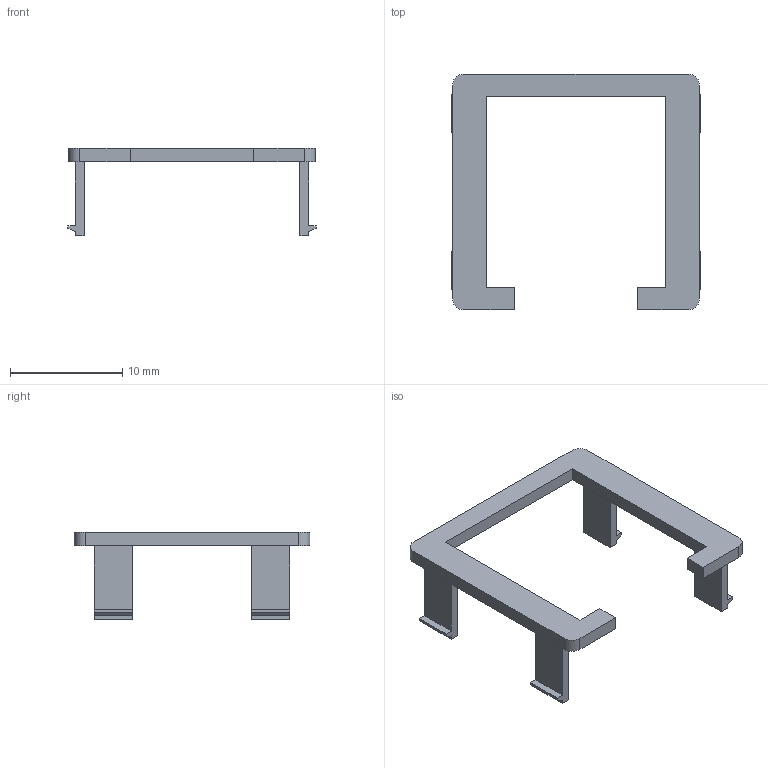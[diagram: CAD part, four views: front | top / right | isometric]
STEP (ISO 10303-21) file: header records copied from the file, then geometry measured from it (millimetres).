
FILE_DESCRIPTION(('Open CASCADE Model'),'2;1');
FILE_NAME('Open CASCADE Shape Model','2026-10-01T12:35:22',('Author'),( 'Open CASCADE'),'Open CASCADE STEP processor 7.8','Open CASCADE 7.8' ,'Unknown');
FILE_SCHEMA(('AUTOMOTIVE_DESIGN { 1 0 10303 214 1 1 1 1 }'));
Length unit declared in the file: millimetre
Products named in the file (2): P07_Amplifier_snap_cap; P07_Amplifier_snap_cap_solid
Assembly tree (1 placements, depth 2):
  P07_Amplifier_snap_cap
    P07_Amplifier_snap_cap_solid
Bounding box: 22.1 x 21 x 7.8 mm (x, y, z)
Volume: 275.9 mm3; surface area: 731.4 mm2
Topology: 1 solids, 1 shells, 54 faces, 144 edges, 96 vertices
Faces by surface type: plane 50, cylinder 4
Entity records: 3505 total; most frequent: CARTESIAN_POINT 680, DIRECTION 476, LINE 344, VECTOR 344, ORIENTED_EDGE 288, PCURVE 288, DEFINITIONAL_REPRESENTATION 288, EDGE_CURVE 144
